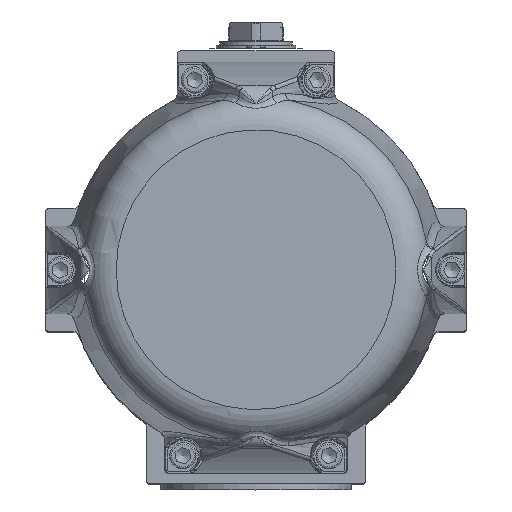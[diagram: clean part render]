
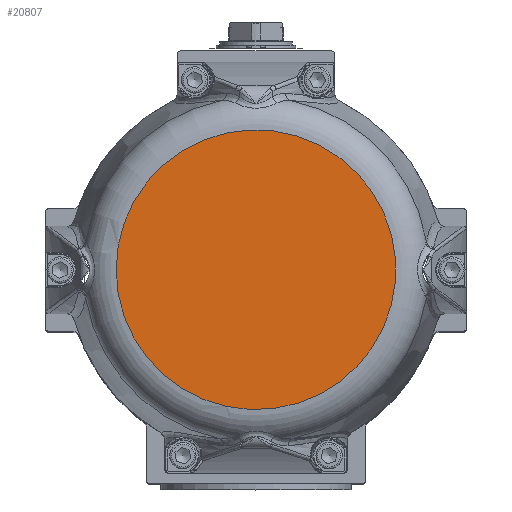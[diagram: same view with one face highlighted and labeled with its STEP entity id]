
A CAD part, top view. The second image highlights one B-rep face of the part: STEP entity #20807.
In plain terms, the highlighted planar face has unit normal (0, 0, 1).
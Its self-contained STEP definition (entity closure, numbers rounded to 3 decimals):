
#17283=CARTESIAN_POINT('',(-95.678,0.,324.5));
#17284=VERTEX_POINT('',#17283);
#17285=CARTESIAN_POINT('',(0.,0.,324.5));
#17286=DIRECTION('',(0.0,0.0,-1.0));
#17287=DIRECTION('',(-1.0,0.0,0.0));
#17288=AXIS2_PLACEMENT_3D('',#17285,#17286,#17287);
#17289=CIRCLE('',#17288,95.678);
#17290=EDGE_CURVE('',#17284,#17284,#17289,.T.);
#20799=CARTESIAN_POINT('',(-47.839,0.,324.5));
#20800=DIRECTION('',(0.0,0.0,1.0));
#20801=DIRECTION('',(0.0,-1.0,0.0));
#20802=AXIS2_PLACEMENT_3D('',#20799,#20800,#20801);
#20803=PLANE('',#20802);
#20804=ORIENTED_EDGE('',*,*,#17290,.F.);
#20805=EDGE_LOOP('',(#20804));
#20806=FACE_OUTER_BOUND('',#20805,.T.);
#20807=ADVANCED_FACE('',(#20806),#20803,.T.);
